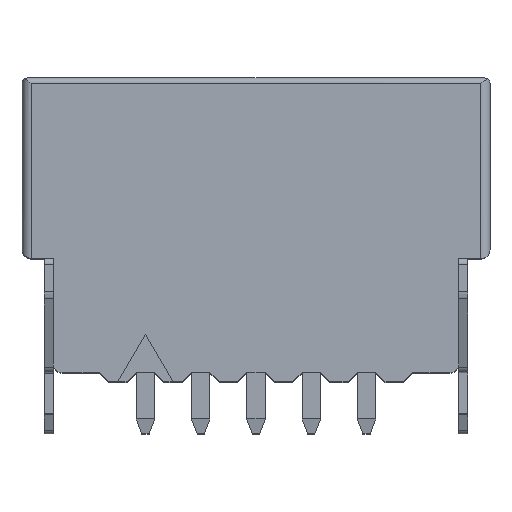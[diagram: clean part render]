
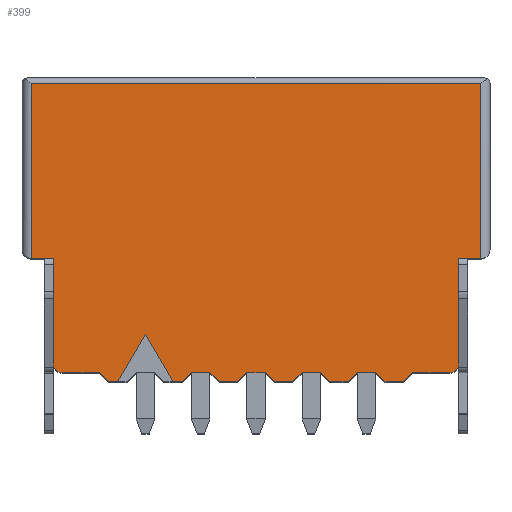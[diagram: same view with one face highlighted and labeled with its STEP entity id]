
A CAD part, top view. The second image highlights one B-rep face of the part: STEP entity #399.
In plain terms, the highlighted planar face has unit normal (0, 0, 1).
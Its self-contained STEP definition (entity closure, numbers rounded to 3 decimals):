
#270=CIRCLE('',#15242,0.5);
#271=CIRCLE('',#15243,0.5);
#399=ADVANCED_FACE('',(#1883),#1178,.T.);
#1178=PLANE('',#15244);
#1883=FACE_OUTER_BOUND('',#2641,.T.);
#2641=EDGE_LOOP('',(#3569,#3570,#3571,#3572,#3573,#3574,#3575,#3576,#3577,
#3578,#3579,#3580,#3581,#3582,#3583,#3584,#3585,#3586,#3587,#3588,#3589,
#3590,#3591,#3592,#3593,#3594,#3595,#3596,#3597,#3598,#3599,#3600,#3601));
#3569=ORIENTED_EDGE('',*,*,#9218,.T.);
#3570=ORIENTED_EDGE('',*,*,#9219,.T.);
#3571=ORIENTED_EDGE('',*,*,#9220,.T.);
#3572=ORIENTED_EDGE('',*,*,#9221,.F.);
#3573=ORIENTED_EDGE('',*,*,#9214,.F.);
#3574=ORIENTED_EDGE('',*,*,#9222,.T.);
#3575=ORIENTED_EDGE('',*,*,#9223,.F.);
#3576=ORIENTED_EDGE('',*,*,#9224,.T.);
#3577=ORIENTED_EDGE('',*,*,#9225,.T.);
#3578=ORIENTED_EDGE('',*,*,#9226,.F.);
#3579=ORIENTED_EDGE('',*,*,#9227,.F.);
#3580=ORIENTED_EDGE('',*,*,#9228,.T.);
#3581=ORIENTED_EDGE('',*,*,#9229,.T.);
#3582=ORIENTED_EDGE('',*,*,#9230,.F.);
#3583=ORIENTED_EDGE('',*,*,#9231,.T.);
#3584=ORIENTED_EDGE('',*,*,#9232,.T.);
#3585=ORIENTED_EDGE('',*,*,#9233,.T.);
#3586=ORIENTED_EDGE('',*,*,#9234,.F.);
#3587=ORIENTED_EDGE('',*,*,#9235,.T.);
#3588=ORIENTED_EDGE('',*,*,#9236,.T.);
#3589=ORIENTED_EDGE('',*,*,#9237,.T.);
#3590=ORIENTED_EDGE('',*,*,#9238,.F.);
#3591=ORIENTED_EDGE('',*,*,#9239,.T.);
#3592=ORIENTED_EDGE('',*,*,#9240,.T.);
#3593=ORIENTED_EDGE('',*,*,#9241,.T.);
#3594=ORIENTED_EDGE('',*,*,#9242,.F.);
#3595=ORIENTED_EDGE('',*,*,#9243,.T.);
#3596=ORIENTED_EDGE('',*,*,#9244,.T.);
#3597=ORIENTED_EDGE('',*,*,#9245,.T.);
#3598=ORIENTED_EDGE('',*,*,#9246,.F.);
#3599=ORIENTED_EDGE('',*,*,#9247,.T.);
#3600=ORIENTED_EDGE('',*,*,#9110,.T.);
#3601=ORIENTED_EDGE('',*,*,#9248,.F.);
#7717=VERTEX_POINT('',#19936);
#7726=VERTEX_POINT('',#19953);
#7820=VERTEX_POINT('',#20162);
#7827=VERTEX_POINT('',#20176);
#7829=VERTEX_POINT('',#20185);
#7830=VERTEX_POINT('',#20186);
#7831=VERTEX_POINT('',#20188);
#7832=VERTEX_POINT('',#20190);
#7833=VERTEX_POINT('',#20193);
#7834=VERTEX_POINT('',#20195);
#7835=VERTEX_POINT('',#20197);
#7836=VERTEX_POINT('',#20199);
#7837=VERTEX_POINT('',#20201);
#7838=VERTEX_POINT('',#20203);
#7839=VERTEX_POINT('',#20205);
#7840=VERTEX_POINT('',#20207);
#7841=VERTEX_POINT('',#20209);
#7842=VERTEX_POINT('',#20211);
#7843=VERTEX_POINT('',#20213);
#7844=VERTEX_POINT('',#20215);
#7845=VERTEX_POINT('',#20217);
#7846=VERTEX_POINT('',#20219);
#7847=VERTEX_POINT('',#20221);
#7848=VERTEX_POINT('',#20223);
#7849=VERTEX_POINT('',#20225);
#7850=VERTEX_POINT('',#20227);
#7851=VERTEX_POINT('',#20229);
#7852=VERTEX_POINT('',#20231);
#7853=VERTEX_POINT('',#20233);
#7854=VERTEX_POINT('',#20235);
#7855=VERTEX_POINT('',#20237);
#7856=VERTEX_POINT('',#20239);
#7857=VERTEX_POINT('',#20241);
#9110=EDGE_CURVE('',#7717,#7726,#11241,.T.);
#9214=EDGE_CURVE('',#7827,#7820,#11339,.T.);
#9218=EDGE_CURVE('',#7829,#7830,#11343,.T.);
#9219=EDGE_CURVE('',#7830,#7831,#11344,.T.);
#9220=EDGE_CURVE('',#7831,#7832,#11345,.T.);
#9221=EDGE_CURVE('',#7820,#7832,#11346,.T.);
#9222=EDGE_CURVE('',#7827,#7833,#270,.T.);
#9223=EDGE_CURVE('',#7834,#7833,#11347,.T.);
#9224=EDGE_CURVE('',#7834,#7835,#11348,.T.);
#9225=EDGE_CURVE('',#7835,#7836,#11349,.T.);
#9226=EDGE_CURVE('',#7837,#7836,#11350,.T.);
#9227=EDGE_CURVE('',#7838,#7837,#11351,.T.);
#9228=EDGE_CURVE('',#7838,#7839,#11352,.T.);
#9229=EDGE_CURVE('',#7839,#7840,#11353,.T.);
#9230=EDGE_CURVE('',#7841,#7840,#11354,.T.);
#9231=EDGE_CURVE('',#7841,#7842,#11355,.T.);
#9232=EDGE_CURVE('',#7842,#7843,#11356,.T.);
#9233=EDGE_CURVE('',#7843,#7844,#11357,.T.);
#9234=EDGE_CURVE('',#7845,#7844,#11358,.T.);
#9235=EDGE_CURVE('',#7845,#7846,#11359,.T.);
#9236=EDGE_CURVE('',#7846,#7847,#11360,.T.);
#9237=EDGE_CURVE('',#7847,#7848,#11361,.T.);
#9238=EDGE_CURVE('',#7849,#7848,#11362,.T.);
#9239=EDGE_CURVE('',#7849,#7850,#11363,.T.);
#9240=EDGE_CURVE('',#7850,#7851,#11364,.T.);
#9241=EDGE_CURVE('',#7851,#7852,#11365,.T.);
#9242=EDGE_CURVE('',#7853,#7852,#11366,.T.);
#9243=EDGE_CURVE('',#7853,#7854,#11367,.T.);
#9244=EDGE_CURVE('',#7854,#7855,#11368,.T.);
#9245=EDGE_CURVE('',#7855,#7856,#11369,.T.);
#9246=EDGE_CURVE('',#7857,#7856,#11370,.T.);
#9247=EDGE_CURVE('',#7857,#7717,#271,.T.);
#9248=EDGE_CURVE('',#7829,#7726,#11371,.T.);
#11241=LINE('',#19954,#13232);
#11339=LINE('',#20177,#13330);
#11343=LINE('',#20184,#13334);
#11344=LINE('',#20187,#13335);
#11345=LINE('',#20189,#13336);
#11346=LINE('',#20191,#13337);
#11347=LINE('',#20194,#13338);
#11348=LINE('',#20196,#13339);
#11349=LINE('',#20198,#13340);
#11350=LINE('',#20200,#13341);
#11351=LINE('',#20202,#13342);
#11352=LINE('',#20204,#13343);
#11353=LINE('',#20206,#13344);
#11354=LINE('',#20208,#13345);
#11355=LINE('',#20210,#13346);
#11356=LINE('',#20212,#13347);
#11357=LINE('',#20214,#13348);
#11358=LINE('',#20216,#13349);
#11359=LINE('',#20218,#13350);
#11360=LINE('',#20220,#13351);
#11361=LINE('',#20222,#13352);
#11362=LINE('',#20224,#13353);
#11363=LINE('',#20226,#13354);
#11364=LINE('',#20228,#13355);
#11365=LINE('',#20230,#13356);
#11366=LINE('',#20232,#13357);
#11367=LINE('',#20234,#13358);
#11368=LINE('',#20236,#13359);
#11369=LINE('',#20238,#13360);
#11370=LINE('',#20240,#13361);
#11371=LINE('',#20243,#13362);
#13232=VECTOR('',#16143,1.);
#13330=VECTOR('',#16289,1.);
#13334=VECTOR('',#16297,1.);
#13335=VECTOR('',#16298,1.);
#13336=VECTOR('',#16299,1.);
#13337=VECTOR('',#16300,1.);
#13338=VECTOR('',#16303,1.);
#13339=VECTOR('',#16304,1.);
#13340=VECTOR('',#16305,1.);
#13341=VECTOR('',#16306,1.);
#13342=VECTOR('',#16307,1.);
#13343=VECTOR('',#16308,1.);
#13344=VECTOR('',#16309,1.);
#13345=VECTOR('',#16310,1.);
#13346=VECTOR('',#16311,1.);
#13347=VECTOR('',#16312,1.);
#13348=VECTOR('',#16313,1.);
#13349=VECTOR('',#16314,1.);
#13350=VECTOR('',#16315,1.);
#13351=VECTOR('',#16316,1.);
#13352=VECTOR('',#16317,1.);
#13353=VECTOR('',#16318,1.);
#13354=VECTOR('',#16319,1.);
#13355=VECTOR('',#16320,1.);
#13356=VECTOR('',#16321,1.);
#13357=VECTOR('',#16322,1.);
#13358=VECTOR('',#16323,1.);
#13359=VECTOR('',#16324,1.);
#13360=VECTOR('',#16325,1.);
#13361=VECTOR('',#16326,1.);
#13362=VECTOR('',#16329,1.);
#15242=AXIS2_PLACEMENT_3D('',#20192,#16301,#16302);
#15243=AXIS2_PLACEMENT_3D('',#20242,#16327,#16328);
#15244=AXIS2_PLACEMENT_3D('',#20244,#16330,#16331);
#16143=DIRECTION('',(0.,1.,0.));
#16289=DIRECTION('',(0.,1.,0.));
#16297=DIRECTION('',(0.,1.,0.));
#16298=DIRECTION('',(-1.,0.,0.));
#16299=DIRECTION('',(0.,-1.,0.));
#16300=DIRECTION('',(-1.,0.,0.));
#16301=DIRECTION('',(0.,0.,1.));
#16302=DIRECTION('',(1.,0.,0.));
#16303=DIRECTION('',(-1.,0.,0.));
#16304=DIRECTION('',(0.707,-0.707,0.));
#16305=DIRECTION('',(1.,0.,0.));
#16306=DIRECTION('',(-0.5,-0.866,0.));
#16307=DIRECTION('',(-0.5,0.866,0.));
#16308=DIRECTION('',(1.,0.,0.));
#16309=DIRECTION('',(0.707,0.707,0.));
#16310=DIRECTION('',(-1.,0.,0.));
#16311=DIRECTION('',(0.707,-0.707,0.));
#16312=DIRECTION('',(1.,0.,0.));
#16313=DIRECTION('',(0.707,0.707,0.));
#16314=DIRECTION('',(-1.,0.,0.));
#16315=DIRECTION('',(0.707,-0.707,0.));
#16316=DIRECTION('',(1.,0.,0.));
#16317=DIRECTION('',(0.707,0.707,0.));
#16318=DIRECTION('',(-1.,0.,0.));
#16319=DIRECTION('',(0.707,-0.707,0.));
#16320=DIRECTION('',(1.,0.,0.));
#16321=DIRECTION('',(0.707,0.707,0.));
#16322=DIRECTION('',(-1.,0.,0.));
#16323=DIRECTION('',(0.707,-0.707,0.));
#16324=DIRECTION('',(1.,0.,0.));
#16325=DIRECTION('',(0.707,0.707,0.));
#16326=DIRECTION('',(-1.,0.,0.));
#16327=DIRECTION('',(0.,0.,1.));
#16328=DIRECTION('',(1.,0.,0.));
#16329=DIRECTION('',(-1.,0.,0.));
#16330=DIRECTION('',(0.,0.,1.));
#16331=DIRECTION('',(1.,0.,0.));
#19936=CARTESIAN_POINT('',(23.7,0.5,17.8));
#19953=CARTESIAN_POINT('',(23.7,6.2,17.8));
#19954=CARTESIAN_POINT('',(23.7,0.,17.8));
#20162=CARTESIAN_POINT('',(1.7,6.2,17.8));
#20176=CARTESIAN_POINT('',(1.7,0.5,17.8));
#20177=CARTESIAN_POINT('',(1.7,0.,17.8));
#20184=CARTESIAN_POINT('',(24.9,8.,17.8));
#20185=CARTESIAN_POINT('',(24.9,6.2,17.8));
#20186=CARTESIAN_POINT('',(24.9,15.7,17.8));
#20187=CARTESIAN_POINT('',(12.7,15.7,17.8));
#20188=CARTESIAN_POINT('',(0.5,15.7,17.8));
#20189=CARTESIAN_POINT('',(0.5,8.,17.8));
#20190=CARTESIAN_POINT('',(0.5,6.2,17.8));
#20191=CARTESIAN_POINT('',(0.85,6.2,17.8));
#20192=CARTESIAN_POINT('',(2.2,0.5,17.8));
#20193=CARTESIAN_POINT('',(2.2,0.,17.8));
#20194=CARTESIAN_POINT('',(12.7,0.,17.8));
#20195=CARTESIAN_POINT('',(4.2,0.,17.8));
#20196=CARTESIAN_POINT('',(4.45,-0.25,17.8));
#20197=CARTESIAN_POINT('',(4.7,-0.5,17.8));
#20198=CARTESIAN_POINT('',(5.2,-0.5,17.8));
#20199=CARTESIAN_POINT('',(5.2,-0.5,17.8));
#20200=CARTESIAN_POINT('',(6.137,1.125,17.8));
#20201=CARTESIAN_POINT('',(6.7,2.1,17.8));
#20202=CARTESIAN_POINT('',(7.263,1.125,17.8));
#20203=CARTESIAN_POINT('',(8.2,-0.5,17.8));
#20204=CARTESIAN_POINT('',(8.2,-0.5,17.8));
#20205=CARTESIAN_POINT('',(8.7,-0.5,17.8));
#20206=CARTESIAN_POINT('',(14.95,5.75,17.8));
#20207=CARTESIAN_POINT('',(9.2,0.,17.8));
#20208=CARTESIAN_POINT('',(12.7,0.,17.8));
#20209=CARTESIAN_POINT('',(10.2,0.,17.8));
#20210=CARTESIAN_POINT('',(7.45,2.75,17.8));
#20211=CARTESIAN_POINT('',(10.7,-0.5,17.8));
#20212=CARTESIAN_POINT('',(11.2,-0.5,17.8));
#20213=CARTESIAN_POINT('',(11.7,-0.5,17.8));
#20214=CARTESIAN_POINT('',(16.45,4.25,17.8));
#20215=CARTESIAN_POINT('',(12.2,0.,17.8));
#20216=CARTESIAN_POINT('',(12.7,0.,17.8));
#20217=CARTESIAN_POINT('',(13.2,0.,17.8));
#20218=CARTESIAN_POINT('',(8.95,4.25,17.8));
#20219=CARTESIAN_POINT('',(13.7,-0.5,17.8));
#20220=CARTESIAN_POINT('',(14.2,-0.5,17.8));
#20221=CARTESIAN_POINT('',(14.7,-0.5,17.8));
#20222=CARTESIAN_POINT('',(17.95,2.75,17.8));
#20223=CARTESIAN_POINT('',(15.2,0.,17.8));
#20224=CARTESIAN_POINT('',(12.7,0.,17.8));
#20225=CARTESIAN_POINT('',(16.2,0.,17.8));
#20226=CARTESIAN_POINT('',(10.45,5.75,17.8));
#20227=CARTESIAN_POINT('',(16.7,-0.5,17.8));
#20228=CARTESIAN_POINT('',(17.2,-0.5,17.8));
#20229=CARTESIAN_POINT('',(17.7,-0.5,17.8));
#20230=CARTESIAN_POINT('',(19.45,1.25,17.8));
#20231=CARTESIAN_POINT('',(18.2,0.,17.8));
#20232=CARTESIAN_POINT('',(12.7,0.,17.8));
#20233=CARTESIAN_POINT('',(19.2,0.,17.8));
#20234=CARTESIAN_POINT('',(11.95,7.25,17.8));
#20235=CARTESIAN_POINT('',(19.7,-0.5,17.8));
#20236=CARTESIAN_POINT('',(20.2,-0.5,17.8));
#20237=CARTESIAN_POINT('',(20.7,-0.5,17.8));
#20238=CARTESIAN_POINT('',(20.95,-0.25,17.8));
#20239=CARTESIAN_POINT('',(21.2,0.,17.8));
#20240=CARTESIAN_POINT('',(12.7,0.,17.8));
#20241=CARTESIAN_POINT('',(23.2,0.,17.8));
#20242=CARTESIAN_POINT('',(23.2,0.5,17.8));
#20243=CARTESIAN_POINT('',(24.55,6.2,17.8));
#20244=CARTESIAN_POINT('',(12.7,8.,17.8));
